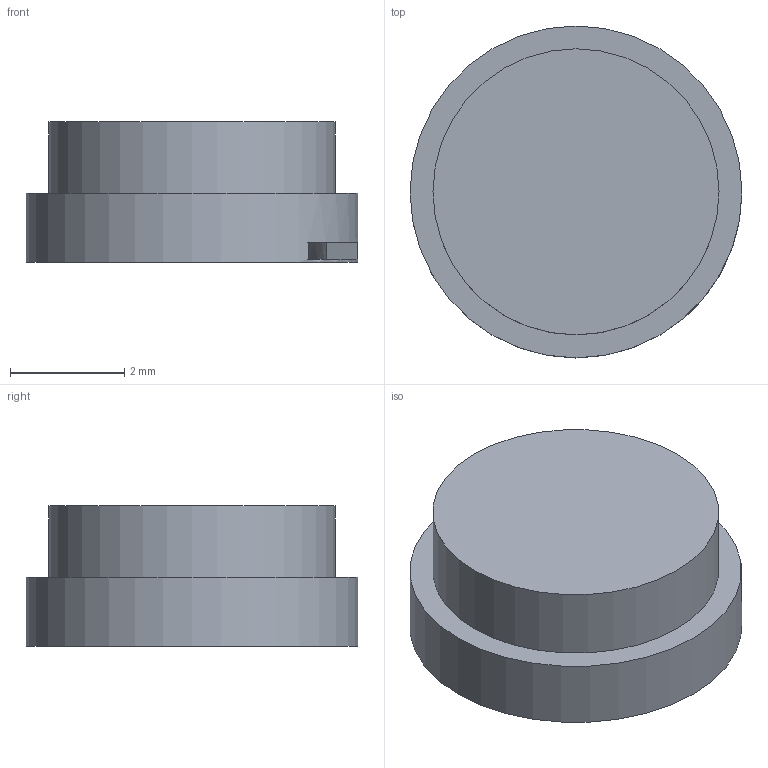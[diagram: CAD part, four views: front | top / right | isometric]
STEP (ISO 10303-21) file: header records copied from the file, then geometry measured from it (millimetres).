
FILE_DESCRIPTION(('Open CASCADE Model'),'2;1');
FILE_NAME('Open CASCADE Shape Model','2026-09-06T11:30:00',('Author'),( 'Open CASCADE'),'Open CASCADE STEP processor 7.7','Open CASCADE 7.7' ,'Unknown');
FILE_SCHEMA(('AUTOMOTIVE_DESIGN { 1 0 10303 214 1 1 1 1 }'));
Length unit declared in the file: millimetre
Products named in the file (1): Open CASCADE STEP translator 7.7 1
Bounding box: 5.8 x 5.8 x 2.45 mm (x, y, z)
Volume: 45.8 mm3; surface area: 107.7 mm2
Topology: 1 solids, 1 shells, 15 faces, 33 edges, 22 vertices
Faces by surface type: plane 12, cylinder 3
Full cylindrical faces by diameter (mm): 4.7 x1, 5 x1, 5.8 x1
Entity records: 867 total; most frequent: CARTESIAN_POINT 175, DIRECTION 128, LINE 71, VECTOR 71, ORIENTED_EDGE 66, PCURVE 66, DEFINITIONAL_REPRESENTATION 66, EDGE_CURVE 33
